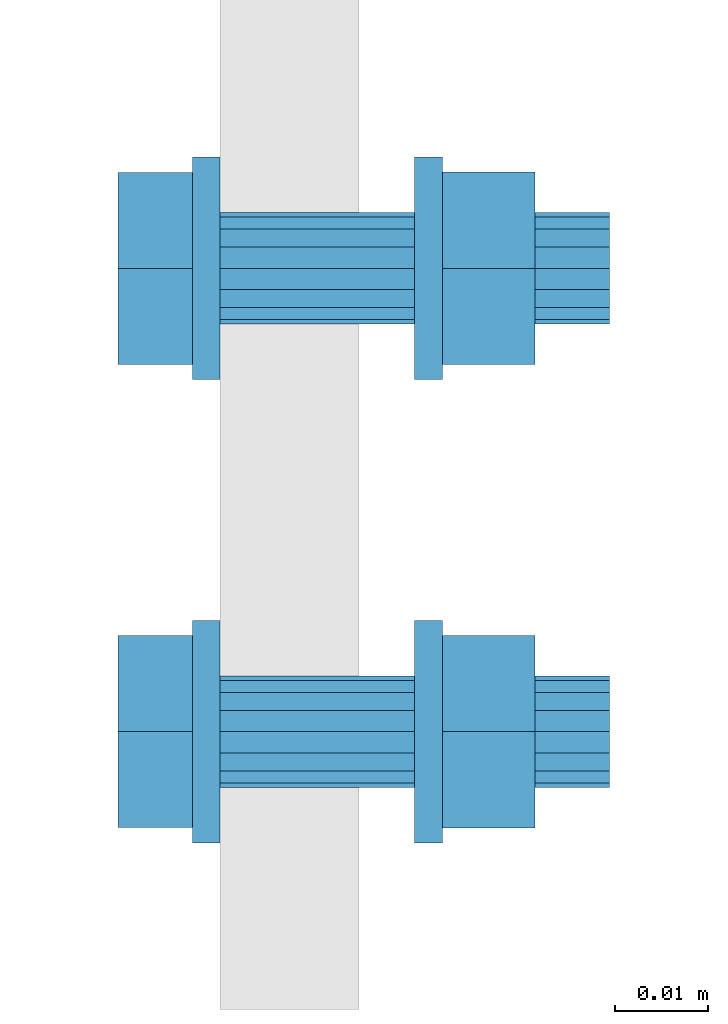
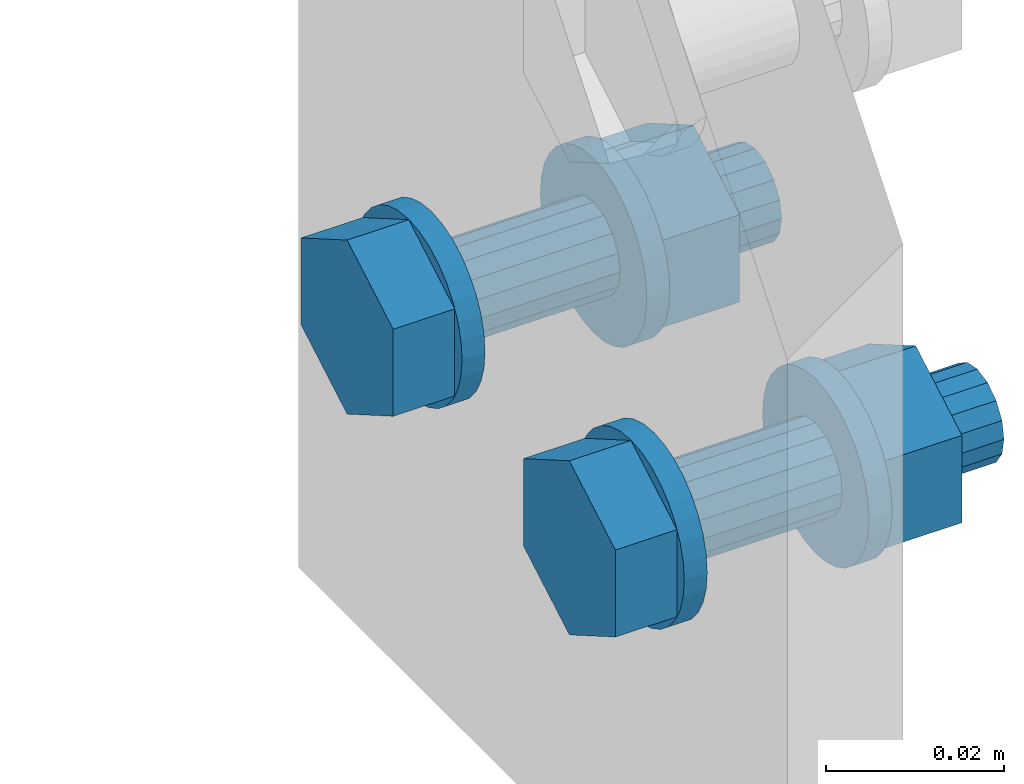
# One storey, part 13 of 13: 2 mechanical fasteners.
"""IFC4X3_ADD2 building model written with IfcOpenShell, lengths in millimetres."""

from ifc_helpers import new_model, entity, si_unit, converted_unit, derived_unit, direction, origin, place, context, project, spatial, faceted_brep, element, save


model = new_model("IFC4X3_ADD2")

# Units and contexts
model_context = context("Model", 3, precision=0.01, world=origin(), true_north=direction((6.123233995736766e-17, 1.0)))
plan_context = context("Plan", 3, precision=0.01, world=origin(), true_north=direction((6.123233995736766e-17, 1.0)))
ifc_project = project(units=[si_unit("LENGTHUNIT", "METRE", prefix="MILLI"), converted_unit("PLANEANGLEUNIT", "DEGREE", entity("IfcPlaneAngleMeasure", 0.017453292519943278), si_unit("PLANEANGLEUNIT", "RADIAN"), dimensions=[0, 0, 0, 0, 0, 0, 0]), si_unit("AREAUNIT", "SQUARE_METRE"), si_unit("VOLUMEUNIT", "CUBIC_METRE"), derived_unit("THERMALTRANSMITTANCEUNIT", [(si_unit("MASSUNIT", "GRAM", prefix="KILO"), 1), (si_unit("THERMODYNAMICTEMPERATUREUNIT", "KELVIN"), -1), (si_unit("TIMEUNIT", "SECOND"), -3)]), derived_unit("USERDEFINED", [(si_unit("MASSUNIT", "GRAM", prefix="KILO"), 1), (si_unit("THERMODYNAMICTEMPERATUREUNIT", "KELVIN"), -1), (si_unit("TIMEUNIT", "SECOND"), -2)]), derived_unit("THERMALRESISTANCEUNIT", [(si_unit("MASSUNIT", "GRAM", prefix="KILO"), -1), (si_unit("TIMEUNIT", "SECOND"), 3), (si_unit("THERMODYNAMICTEMPERATUREUNIT", "KELVIN"), 1)]), si_unit("MASSUNIT", "GRAM", prefix="KILO"), derived_unit("MOMENTOFINERTIAUNIT", [(si_unit("LENGTHUNIT", "METRE"), 4)]), derived_unit("LINEARFORCEUNIT", [(si_unit("MASSUNIT", "GRAM", prefix="KILO"), 1), (si_unit("TIMEUNIT", "SECOND"), -2)]), derived_unit("WARPINGCONSTANTUNIT", [(si_unit("LENGTHUNIT", "METRE"), 6)]), si_unit("PRESSUREUNIT", "PASCAL"), derived_unit("MASSDENSITYUNIT", [(si_unit("MASSUNIT", "GRAM", prefix="KILO"), 1), (si_unit("LENGTHUNIT", "METRE"), -3)]), derived_unit("MODULUSOFELASTICITYUNIT", [(si_unit("MASSUNIT", "GRAM", prefix="KILO"), 1), (si_unit("TIMEUNIT", "SECOND"), -2), (si_unit("LENGTHUNIT", "METRE"), -1)]), derived_unit("THERMALEXPANSIONCOEFFICIENTUNIT", [(si_unit("THERMODYNAMICTEMPERATUREUNIT", "KELVIN"), -1)]), derived_unit("VAPORPERMEABILITYUNIT", [(si_unit("LENGTHUNIT", "METRE"), -1), (si_unit("TIMEUNIT", "SECOND"), 1)]), derived_unit("USERDEFINED", [(si_unit("MASSUNIT", "GRAM", prefix="KILO"), 1), (si_unit("TIMEUNIT", "SECOND"), -3), (si_unit("LENGTHUNIT", "METRE"), 3), (si_unit("ELECTRICCURRENTUNIT", "AMPERE"), -2)]), derived_unit("SPECIFICHEATCAPACITYUNIT", [(si_unit("THERMODYNAMICTEMPERATUREUNIT", "KELVIN"), -1), (si_unit("TIMEUNIT", "SECOND"), -2), (si_unit("LENGTHUNIT", "METRE"), 2)]), derived_unit("THERMALCONDUCTANCEUNIT", [(si_unit("MASSUNIT", "GRAM", prefix="KILO"), 1), (si_unit("THERMODYNAMICTEMPERATUREUNIT", "KELVIN"), -1), (si_unit("TIMEUNIT", "SECOND"), -3), (si_unit("LENGTHUNIT", "METRE"), 1)])], contexts=[model_context, plan_context])

# Site, building, storey
site_placement = place(None, origin())
site = spatial("IfcSite", under=ifc_project, at=site_placement, Name="Default", CompositionType="ELEMENT")
building_placement = place(site_placement, origin())
building = spatial("IfcBuilding", under=site, at=building_placement, Name="Complex structure", CompositionType="ELEMENT")
storey_placement = place(building_placement, origin())
storey = spatial("IfcBuildingStorey", under=building, at=storey_placement, Name="Level 00", CompositionType="ELEMENT", Elevation=0.0)

# Mechanical fasteners
mechanical_fastener_1_placement = place(storey_placement, origin())
element("IfcMechanicalFastener", 1, at=mechanical_fastener_1_placement, inside=storey, ObjectType="Bolt#5", NominalDiameter=12.0, NominalLength=45.0, context=model_context, shape_type="Brep", body=[
    faceted_brep([(-1166.221550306, -1295.866703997, 2900.0), (-1163.221550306, -1295.866703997, 2900.0), (-1163.221550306, -1296.097280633, 2897.658916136), (-1166.221550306, -1296.097280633, 2897.658916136), (-1163.221550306, -1296.780149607, 2895.407798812), (-1166.221550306, -1296.780149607, 2895.407798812), (-1163.221550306, -1297.88906865, 2893.333157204), (-1166.221550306, -1297.88906865, 2893.333157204), (-1163.221550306, -1299.381422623, 2891.514718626), (-1166.221550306, -1299.381422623, 2891.514718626), (-1163.221550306, -1301.199861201, 2890.022364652), (-1166.221550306, -1301.199861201, 2890.022364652), (-1163.221550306, -1303.274502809, 2888.91344561), (-1166.221550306, -1303.274502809, 2888.91344561), (-1163.221550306, -1305.525620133, 2888.230576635), (-1166.221550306, -1305.525620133, 2888.230576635), (-1163.221550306, -1307.866703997, 2888.0), (-1166.221550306, -1307.866703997, 2888.0), (-1163.221550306, -1310.207787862, 2888.230576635), (-1166.221550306, -1310.207787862, 2888.230576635), (-1163.221550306, -1312.458905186, 2888.91344561), (-1166.221550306, -1312.458905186, 2888.91344561), (-1163.221550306, -1314.533546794, 2890.022364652), (-1166.221550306, -1314.533546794, 2890.022364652), (-1163.221550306, -1316.351985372, 2891.514718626), (-1166.221550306, -1316.351985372, 2891.514718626), (-1163.221550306, -1317.844339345, 2893.333157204), (-1166.221550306, -1317.844339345, 2893.333157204), (-1163.221550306, -1318.953258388, 2895.407798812), (-1166.221550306, -1318.953258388, 2895.407798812), (-1163.221550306, -1319.636127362, 2897.658916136), (-1166.221550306, -1319.636127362, 2897.658916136), (-1163.221550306, -1319.866703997, 2900.0), (-1166.221550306, -1319.866703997, 2900.0), (-1163.221550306, -1319.636127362, 2902.341083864), (-1166.221550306, -1319.636127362, 2902.341083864), (-1163.221550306, -1318.953258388, 2904.592201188), (-1166.221550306, -1318.953258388, 2904.592201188), (-1163.221550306, -1317.844339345, 2906.666842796), (-1166.221550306, -1317.844339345, 2906.666842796), (-1163.221550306, -1316.351985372, 2908.485281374), (-1166.221550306, -1316.351985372, 2908.485281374), (-1163.221550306, -1314.533546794, 2909.977635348), (-1166.221550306, -1314.533546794, 2909.977635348), (-1163.221550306, -1312.458905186, 2911.08655439), (-1166.221550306, -1312.458905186, 2911.08655439), (-1163.221550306, -1310.207787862, 2911.769423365), (-1166.221550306, -1310.207787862, 2911.769423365), (-1163.221550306, -1307.866703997, 2912.0), (-1166.221550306, -1307.866703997, 2912.0), (-1163.221550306, -1305.525620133, 2911.769423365), (-1166.221550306, -1305.525620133, 2911.769423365), (-1163.221550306, -1303.274502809, 2911.08655439), (-1166.221550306, -1303.274502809, 2911.08655439), (-1163.221550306, -1301.199861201, 2909.977635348), (-1166.221550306, -1301.199861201, 2909.977635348), (-1163.221550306, -1299.381422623, 2908.485281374), (-1166.221550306, -1299.381422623, 2908.485281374), (-1163.221550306, -1297.88906865, 2906.666842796), (-1166.221550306, -1297.88906865, 2906.666842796), (-1163.221550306, -1296.780149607, 2904.592201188), (-1166.221550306, -1296.780149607, 2904.592201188), (-1163.221550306, -1296.097280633, 2902.341083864), (-1166.221550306, -1296.097280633, 2902.341083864)], [[[0, 1, 2, 3]], [[3, 2, 4, 5]], [[5, 4, 6, 7]], [[7, 6, 8, 9]], [[9, 8, 10, 11]], [[11, 10, 12, 13]], [[13, 12, 14, 15]], [[15, 14, 16, 17]], [[17, 16, 18, 19]], [[19, 18, 20, 21]], [[21, 20, 22, 23]], [[23, 22, 24, 25]], [[25, 24, 26, 27]], [[27, 26, 28, 29]], [[29, 28, 30, 31]], [[31, 30, 32, 33]], [[33, 32, 34, 35]], [[35, 34, 36, 37]], [[37, 36, 38, 39]], [[39, 38, 40, 41]], [[41, 40, 42, 43]], [[43, 42, 44, 45]], [[45, 44, 46, 47]], [[47, 46, 48, 49]], [[49, 48, 50, 51]], [[51, 50, 52, 53]], [[53, 52, 54, 55]], [[55, 54, 56, 57]], [[57, 56, 58, 59]], [[59, 58, 60, 61]], [[61, 60, 62, 63]], [[63, 62, 1, 0]], [[0, 3, 5, 7, 9, 11, 13, 15, 17, 19, 21, 23, 25, 27, 29, 31, 33, 35, 37, 39, 41, 43, 45, 47, 49, 51, 53, 55, 57, 59, 61, 63]], [[1, 62, 60, 58, 56, 54, 52, 50, 48, 46, 44, 42, 40, 38, 36, 34, 32, 30, 28, 26, 24, 22, 20, 18, 16, 14, 12, 10, 8, 6, 4, 2]]]),
    faceted_brep([(-1166.221550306, -1318.2200377, 2894.0225), (-1174.221550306, -1318.2200377, 2894.0225), (-1174.221550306, -1307.866703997, 2888.045), (-1166.221550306, -1307.866703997, 2888.045), (-1174.221550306, -1297.513370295, 2894.0225), (-1166.221550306, -1297.513370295, 2894.0225), (-1174.221550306, -1297.513370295, 2905.9775), (-1166.221550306, -1297.513370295, 2905.9775), (-1174.221550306, -1307.866703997, 2911.955), (-1166.221550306, -1307.866703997, 2911.955), (-1174.221550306, -1318.2200377, 2905.9775), (-1166.221550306, -1318.2200377, 2905.9775)], [[[0, 1, 2, 3]], [[3, 2, 4, 5]], [[5, 4, 6, 7]], [[7, 6, 8, 9]], [[9, 8, 10, 11]], [[11, 10, 1, 0]], [[4, 2, 1, 10, 8, 6]], [[0, 3, 5, 7, 9, 11]]]),
    faceted_brep([(-1163.221550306, -1301.866703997, 2900.0), (-1142.221550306, -1301.866703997, 2900.0), (-1142.221550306, -1302.323426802, 2897.703899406), (-1163.221550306, -1302.323426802, 2897.703899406), (-1142.221550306, -1303.62406331, 2895.757359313), (-1163.221550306, -1303.62406331, 2895.757359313), (-1142.221550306, -1305.570603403, 2894.456722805), (-1163.221550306, -1305.570603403, 2894.456722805), (-1142.221550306, -1307.866703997, 2894.0), (-1163.221550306, -1307.866703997, 2894.0), (-1142.221550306, -1310.162804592, 2894.456722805), (-1163.221550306, -1310.162804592, 2894.456722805), (-1142.221550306, -1312.109344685, 2895.757359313), (-1163.221550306, -1312.109344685, 2895.757359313), (-1142.221550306, -1313.409981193, 2897.703899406), (-1163.221550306, -1313.409981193, 2897.703899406), (-1142.221550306, -1313.866703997, 2900.0), (-1163.221550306, -1313.866703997, 2900.0), (-1142.221550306, -1313.409981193, 2902.296100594), (-1163.221550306, -1313.409981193, 2902.296100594), (-1142.221550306, -1312.109344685, 2904.242640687), (-1163.221550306, -1312.109344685, 2904.242640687), (-1142.221550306, -1310.162804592, 2905.543277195), (-1163.221550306, -1310.162804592, 2905.543277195), (-1142.221550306, -1307.866703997, 2906.0), (-1163.221550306, -1307.866703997, 2906.0), (-1142.221550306, -1305.570603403, 2905.543277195), (-1163.221550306, -1305.570603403, 2905.543277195), (-1142.221550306, -1303.62406331, 2904.242640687), (-1163.221550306, -1303.62406331, 2904.242640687), (-1142.221550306, -1302.323426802, 2902.296100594), (-1163.221550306, -1302.323426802, 2902.296100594)], [[[0, 1, 2, 3]], [[3, 2, 4, 5]], [[5, 4, 6, 7]], [[7, 6, 8, 9]], [[9, 8, 10, 11]], [[11, 10, 12, 13]], [[13, 12, 14, 15]], [[15, 14, 16, 17]], [[17, 16, 18, 19]], [[19, 18, 20, 21]], [[21, 20, 22, 23]], [[23, 22, 24, 25]], [[25, 24, 26, 27]], [[27, 26, 28, 29]], [[29, 28, 30, 31]], [[31, 30, 1, 0]], [[0, 3, 5, 7, 9, 11, 13, 15, 17, 19, 21, 23, 25, 27, 29, 31]], [[1, 30, 28, 26, 24, 22, 20, 18, 16, 14, 12, 10, 8, 6, 4, 2]]]),
    faceted_brep([(-1142.221550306, -1295.866703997, 2900.0), (-1139.221550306, -1295.866703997, 2900.0), (-1139.221550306, -1296.097280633, 2897.658916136), (-1142.221550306, -1296.097280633, 2897.658916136), (-1139.221550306, -1296.780149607, 2895.407798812), (-1142.221550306, -1296.780149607, 2895.407798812), (-1139.221550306, -1297.88906865, 2893.333157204), (-1142.221550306, -1297.88906865, 2893.333157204), (-1139.221550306, -1299.381422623, 2891.514718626), (-1142.221550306, -1299.381422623, 2891.514718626), (-1139.221550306, -1301.199861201, 2890.022364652), (-1142.221550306, -1301.199861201, 2890.022364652), (-1139.221550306, -1303.274502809, 2888.91344561), (-1142.221550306, -1303.274502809, 2888.91344561), (-1139.221550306, -1305.525620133, 2888.230576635), (-1142.221550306, -1305.525620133, 2888.230576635), (-1139.221550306, -1307.866703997, 2888.0), (-1142.221550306, -1307.866703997, 2888.0), (-1139.221550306, -1310.207787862, 2888.230576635), (-1142.221550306, -1310.207787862, 2888.230576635), (-1139.221550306, -1312.458905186, 2888.91344561), (-1142.221550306, -1312.458905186, 2888.91344561), (-1139.221550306, -1314.533546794, 2890.022364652), (-1142.221550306, -1314.533546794, 2890.022364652), (-1139.221550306, -1316.351985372, 2891.514718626), (-1142.221550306, -1316.351985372, 2891.514718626), (-1139.221550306, -1317.844339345, 2893.333157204), (-1142.221550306, -1317.844339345, 2893.333157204), (-1139.221550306, -1318.953258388, 2895.407798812), (-1142.221550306, -1318.953258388, 2895.407798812), (-1139.221550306, -1319.636127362, 2897.658916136), (-1142.221550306, -1319.636127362, 2897.658916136), (-1139.221550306, -1319.866703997, 2900.0), (-1142.221550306, -1319.866703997, 2900.0), (-1139.221550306, -1319.636127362, 2902.341083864), (-1142.221550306, -1319.636127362, 2902.341083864), (-1139.221550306, -1318.953258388, 2904.592201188), (-1142.221550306, -1318.953258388, 2904.592201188), (-1139.221550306, -1317.844339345, 2906.666842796), (-1142.221550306, -1317.844339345, 2906.666842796), (-1139.221550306, -1316.351985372, 2908.485281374), (-1142.221550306, -1316.351985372, 2908.485281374), (-1139.221550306, -1314.533546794, 2909.977635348), (-1142.221550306, -1314.533546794, 2909.977635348), (-1139.221550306, -1312.458905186, 2911.08655439), (-1142.221550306, -1312.458905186, 2911.08655439), (-1139.221550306, -1310.207787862, 2911.769423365), (-1142.221550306, -1310.207787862, 2911.769423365), (-1139.221550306, -1307.866703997, 2912.0), (-1142.221550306, -1307.866703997, 2912.0), (-1139.221550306, -1305.525620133, 2911.769423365), (-1142.221550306, -1305.525620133, 2911.769423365), (-1139.221550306, -1303.274502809, 2911.08655439), (-1142.221550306, -1303.274502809, 2911.08655439), (-1139.221550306, -1301.199861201, 2909.977635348), (-1142.221550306, -1301.199861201, 2909.977635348), (-1139.221550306, -1299.381422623, 2908.485281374), (-1142.221550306, -1299.381422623, 2908.485281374), (-1139.221550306, -1297.88906865, 2906.666842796), (-1142.221550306, -1297.88906865, 2906.666842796), (-1139.221550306, -1296.780149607, 2904.592201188), (-1142.221550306, -1296.780149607, 2904.592201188), (-1139.221550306, -1296.097280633, 2902.341083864), (-1142.221550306, -1296.097280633, 2902.341083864)], [[[0, 1, 2, 3]], [[3, 2, 4, 5]], [[5, 4, 6, 7]], [[7, 6, 8, 9]], [[9, 8, 10, 11]], [[11, 10, 12, 13]], [[13, 12, 14, 15]], [[15, 14, 16, 17]], [[17, 16, 18, 19]], [[19, 18, 20, 21]], [[21, 20, 22, 23]], [[23, 22, 24, 25]], [[25, 24, 26, 27]], [[27, 26, 28, 29]], [[29, 28, 30, 31]], [[31, 30, 32, 33]], [[33, 32, 34, 35]], [[35, 34, 36, 37]], [[37, 36, 38, 39]], [[39, 38, 40, 41]], [[41, 40, 42, 43]], [[43, 42, 44, 45]], [[45, 44, 46, 47]], [[47, 46, 48, 49]], [[49, 48, 50, 51]], [[51, 50, 52, 53]], [[53, 52, 54, 55]], [[55, 54, 56, 57]], [[57, 56, 58, 59]], [[59, 58, 60, 61]], [[61, 60, 62, 63]], [[63, 62, 1, 0]], [[0, 3, 5, 7, 9, 11, 13, 15, 17, 19, 21, 23, 25, 27, 29, 31, 33, 35, 37, 39, 41, 43, 45, 47, 49, 51, 53, 55, 57, 59, 61, 63]], [[1, 62, 60, 58, 56, 54, 52, 50, 48, 46, 44, 42, 40, 38, 36, 34, 32, 30, 28, 26, 24, 22, 20, 18, 16, 14, 12, 10, 8, 6, 4, 2]]]),
    faceted_brep([(-1129.221550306, -1318.259008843, 2894.0), (-1139.221550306, -1318.259008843, 2894.0), (-1139.221550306, -1307.866703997, 2888.0), (-1129.221550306, -1307.866703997, 2888.0), (-1139.221550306, -1297.474399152, 2894.0), (-1129.221550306, -1297.474399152, 2894.0), (-1139.221550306, -1297.474399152, 2906.0), (-1129.221550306, -1297.474399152, 2906.0), (-1139.221550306, -1307.866703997, 2912.0), (-1129.221550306, -1307.866703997, 2912.0), (-1139.221550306, -1318.259008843, 2906.0), (-1129.221550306, -1318.259008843, 2906.0)], [[[0, 1, 2, 3]], [[3, 2, 4, 5]], [[5, 4, 6, 7]], [[7, 6, 8, 9]], [[9, 8, 10, 11]], [[11, 10, 1, 0]], [[4, 2, 1, 10, 8, 6]], [[0, 3, 5, 7, 9, 11]]]),
    faceted_brep([(-1129.221550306, -1301.866703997, 2900.0), (-1121.221550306, -1301.866703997, 2900.0), (-1121.221550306, -1302.323426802, 2897.703899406), (-1129.221550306, -1302.323426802, 2897.703899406), (-1121.221550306, -1303.62406331, 2895.757359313), (-1129.221550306, -1303.62406331, 2895.757359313), (-1121.221550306, -1305.570603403, 2894.456722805), (-1129.221550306, -1305.570603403, 2894.456722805), (-1121.221550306, -1307.866703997, 2894.0), (-1129.221550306, -1307.866703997, 2894.0), (-1121.221550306, -1310.162804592, 2894.456722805), (-1129.221550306, -1310.162804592, 2894.456722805), (-1121.221550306, -1312.109344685, 2895.757359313), (-1129.221550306, -1312.109344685, 2895.757359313), (-1121.221550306, -1313.409981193, 2897.703899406), (-1129.221550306, -1313.409981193, 2897.703899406), (-1121.221550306, -1313.866703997, 2900.0), (-1129.221550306, -1313.866703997, 2900.0), (-1121.221550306, -1313.409981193, 2902.296100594), (-1129.221550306, -1313.409981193, 2902.296100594), (-1121.221550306, -1312.109344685, 2904.242640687), (-1129.221550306, -1312.109344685, 2904.242640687), (-1121.221550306, -1310.162804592, 2905.543277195), (-1129.221550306, -1310.162804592, 2905.543277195), (-1121.221550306, -1307.866703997, 2906.0), (-1129.221550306, -1307.866703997, 2906.0), (-1121.221550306, -1305.570603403, 2905.543277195), (-1129.221550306, -1305.570603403, 2905.543277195), (-1121.221550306, -1303.62406331, 2904.242640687), (-1129.221550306, -1303.62406331, 2904.242640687), (-1121.221550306, -1302.323426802, 2902.296100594), (-1129.221550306, -1302.323426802, 2902.296100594)], [[[0, 1, 2, 3]], [[3, 2, 4, 5]], [[5, 4, 6, 7]], [[7, 6, 8, 9]], [[9, 8, 10, 11]], [[11, 10, 12, 13]], [[13, 12, 14, 15]], [[15, 14, 16, 17]], [[17, 16, 18, 19]], [[19, 18, 20, 21]], [[21, 20, 22, 23]], [[23, 22, 24, 25]], [[25, 24, 26, 27]], [[27, 26, 28, 29]], [[29, 28, 30, 31]], [[31, 30, 1, 0]], [[0, 3, 5, 7, 9, 11, 13, 15, 17, 19, 21, 23, 25, 27, 29, 31]], [[1, 30, 28, 26, 24, 22, 20, 18, 16, 14, 12, 10, 8, 6, 4, 2]]]),
])
mechanical_fastener_2_placement = place(storey_placement, origin())
element("IfcMechanicalFastener", 2, at=mechanical_fastener_2_placement, inside=storey, ObjectType="Bolt#6", NominalDiameter=12.0, NominalLength=45.0, context=model_context, shape_type="Brep", body=[
    faceted_brep([(-1166.221550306, -1269.866703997, 2900.0), (-1163.221550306, -1269.866703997, 2900.0), (-1163.221550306, -1269.636127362, 2902.341083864), (-1166.221550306, -1269.636127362, 2902.341083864), (-1163.221550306, -1268.953258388, 2904.592201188), (-1166.221550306, -1268.953258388, 2904.592201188), (-1163.221550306, -1267.844339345, 2906.666842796), (-1166.221550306, -1267.844339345, 2906.666842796), (-1163.221550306, -1266.351985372, 2908.485281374), (-1166.221550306, -1266.351985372, 2908.485281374), (-1163.221550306, -1264.533546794, 2909.977635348), (-1166.221550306, -1264.533546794, 2909.977635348), (-1163.221550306, -1262.458905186, 2911.08655439), (-1166.221550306, -1262.458905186, 2911.08655439), (-1163.221550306, -1260.207787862, 2911.769423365), (-1166.221550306, -1260.207787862, 2911.769423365), (-1163.221550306, -1257.866703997, 2912.0), (-1166.221550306, -1257.866703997, 2912.0), (-1163.221550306, -1255.525620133, 2911.769423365), (-1166.221550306, -1255.525620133, 2911.769423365), (-1163.221550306, -1253.274502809, 2911.08655439), (-1166.221550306, -1253.274502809, 2911.08655439), (-1163.221550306, -1251.199861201, 2909.977635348), (-1166.221550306, -1251.199861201, 2909.977635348), (-1163.221550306, -1249.381422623, 2908.485281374), (-1166.221550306, -1249.381422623, 2908.485281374), (-1163.221550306, -1247.88906865, 2906.666842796), (-1166.221550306, -1247.88906865, 2906.666842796), (-1163.221550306, -1246.780149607, 2904.592201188), (-1166.221550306, -1246.780149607, 2904.592201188), (-1163.221550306, -1246.097280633, 2902.341083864), (-1166.221550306, -1246.097280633, 2902.341083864), (-1163.221550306, -1245.866703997, 2900.0), (-1166.221550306, -1245.866703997, 2900.0), (-1163.221550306, -1246.097280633, 2897.658916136), (-1166.221550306, -1246.097280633, 2897.658916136), (-1163.221550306, -1246.780149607, 2895.407798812), (-1166.221550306, -1246.780149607, 2895.407798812), (-1163.221550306, -1247.88906865, 2893.333157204), (-1166.221550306, -1247.88906865, 2893.333157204), (-1163.221550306, -1249.381422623, 2891.514718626), (-1166.221550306, -1249.381422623, 2891.514718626), (-1163.221550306, -1251.199861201, 2890.022364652), (-1166.221550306, -1251.199861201, 2890.022364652), (-1163.221550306, -1253.274502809, 2888.91344561), (-1166.221550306, -1253.274502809, 2888.91344561), (-1163.221550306, -1255.525620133, 2888.230576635), (-1166.221550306, -1255.525620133, 2888.230576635), (-1163.221550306, -1257.866703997, 2888.0), (-1166.221550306, -1257.866703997, 2888.0), (-1163.221550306, -1260.207787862, 2888.230576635), (-1166.221550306, -1260.207787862, 2888.230576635), (-1163.221550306, -1262.458905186, 2888.91344561), (-1166.221550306, -1262.458905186, 2888.91344561), (-1163.221550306, -1264.533546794, 2890.022364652), (-1166.221550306, -1264.533546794, 2890.022364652), (-1163.221550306, -1266.351985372, 2891.514718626), (-1166.221550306, -1266.351985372, 2891.514718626), (-1163.221550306, -1267.844339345, 2893.333157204), (-1166.221550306, -1267.844339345, 2893.333157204), (-1163.221550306, -1268.953258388, 2895.407798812), (-1166.221550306, -1268.953258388, 2895.407798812), (-1163.221550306, -1269.636127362, 2897.658916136), (-1166.221550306, -1269.636127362, 2897.658916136)], [[[0, 1, 2, 3]], [[3, 2, 4, 5]], [[5, 4, 6, 7]], [[7, 6, 8, 9]], [[9, 8, 10, 11]], [[11, 10, 12, 13]], [[13, 12, 14, 15]], [[15, 14, 16, 17]], [[17, 16, 18, 19]], [[19, 18, 20, 21]], [[21, 20, 22, 23]], [[23, 22, 24, 25]], [[25, 24, 26, 27]], [[27, 26, 28, 29]], [[29, 28, 30, 31]], [[31, 30, 32, 33]], [[33, 32, 34, 35]], [[35, 34, 36, 37]], [[37, 36, 38, 39]], [[39, 38, 40, 41]], [[41, 40, 42, 43]], [[43, 42, 44, 45]], [[45, 44, 46, 47]], [[47, 46, 48, 49]], [[49, 48, 50, 51]], [[51, 50, 52, 53]], [[53, 52, 54, 55]], [[55, 54, 56, 57]], [[57, 56, 58, 59]], [[59, 58, 60, 61]], [[61, 60, 62, 63]], [[63, 62, 1, 0]], [[0, 3, 5, 7, 9, 11, 13, 15, 17, 19, 21, 23, 25, 27, 29, 31, 33, 35, 37, 39, 41, 43, 45, 47, 49, 51, 53, 55, 57, 59, 61, 63]], [[1, 62, 60, 58, 56, 54, 52, 50, 48, 46, 44, 42, 40, 38, 36, 34, 32, 30, 28, 26, 24, 22, 20, 18, 16, 14, 12, 10, 8, 6, 4, 2]]]),
    faceted_brep([(-1166.221550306, -1247.513370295, 2905.9775), (-1174.221550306, -1247.513370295, 2905.9775), (-1174.221550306, -1257.866703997, 2911.955), (-1166.221550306, -1257.866703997, 2911.955), (-1174.221550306, -1268.2200377, 2905.9775), (-1166.221550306, -1268.2200377, 2905.9775), (-1174.221550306, -1268.2200377, 2894.0225), (-1166.221550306, -1268.2200377, 2894.0225), (-1174.221550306, -1257.866703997, 2888.045), (-1166.221550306, -1257.866703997, 2888.045), (-1174.221550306, -1247.513370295, 2894.0225), (-1166.221550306, -1247.513370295, 2894.0225)], [[[0, 1, 2, 3]], [[3, 2, 4, 5]], [[5, 4, 6, 7]], [[7, 6, 8, 9]], [[9, 8, 10, 11]], [[11, 10, 1, 0]], [[4, 2, 1, 10, 8, 6]], [[0, 3, 5, 7, 9, 11]]]),
    faceted_brep([(-1163.221550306, -1263.866703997, 2900.0), (-1142.221550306, -1263.866703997, 2900.0), (-1142.221550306, -1263.409981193, 2902.296100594), (-1163.221550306, -1263.409981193, 2902.296100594), (-1142.221550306, -1262.109344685, 2904.242640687), (-1163.221550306, -1262.109344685, 2904.242640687), (-1142.221550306, -1260.162804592, 2905.543277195), (-1163.221550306, -1260.162804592, 2905.543277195), (-1142.221550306, -1257.866703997, 2906.0), (-1163.221550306, -1257.866703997, 2906.0), (-1142.221550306, -1255.570603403, 2905.543277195), (-1163.221550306, -1255.570603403, 2905.543277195), (-1142.221550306, -1253.62406331, 2904.242640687), (-1163.221550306, -1253.62406331, 2904.242640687), (-1142.221550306, -1252.323426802, 2902.296100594), (-1163.221550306, -1252.323426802, 2902.296100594), (-1142.221550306, -1251.866703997, 2900.0), (-1163.221550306, -1251.866703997, 2900.0), (-1142.221550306, -1252.323426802, 2897.703899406), (-1163.221550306, -1252.323426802, 2897.703899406), (-1142.221550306, -1253.62406331, 2895.757359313), (-1163.221550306, -1253.62406331, 2895.757359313), (-1142.221550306, -1255.570603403, 2894.456722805), (-1163.221550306, -1255.570603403, 2894.456722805), (-1142.221550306, -1257.866703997, 2894.0), (-1163.221550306, -1257.866703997, 2894.0), (-1142.221550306, -1260.162804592, 2894.456722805), (-1163.221550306, -1260.162804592, 2894.456722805), (-1142.221550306, -1262.109344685, 2895.757359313), (-1163.221550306, -1262.109344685, 2895.757359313), (-1142.221550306, -1263.409981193, 2897.703899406), (-1163.221550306, -1263.409981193, 2897.703899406)], [[[0, 1, 2, 3]], [[3, 2, 4, 5]], [[5, 4, 6, 7]], [[7, 6, 8, 9]], [[9, 8, 10, 11]], [[11, 10, 12, 13]], [[13, 12, 14, 15]], [[15, 14, 16, 17]], [[17, 16, 18, 19]], [[19, 18, 20, 21]], [[21, 20, 22, 23]], [[23, 22, 24, 25]], [[25, 24, 26, 27]], [[27, 26, 28, 29]], [[29, 28, 30, 31]], [[31, 30, 1, 0]], [[0, 3, 5, 7, 9, 11, 13, 15, 17, 19, 21, 23, 25, 27, 29, 31]], [[1, 30, 28, 26, 24, 22, 20, 18, 16, 14, 12, 10, 8, 6, 4, 2]]]),
    faceted_brep([(-1142.221550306, -1269.866703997, 2900.0), (-1139.221550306, -1269.866703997, 2900.0), (-1139.221550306, -1269.636127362, 2902.341083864), (-1142.221550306, -1269.636127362, 2902.341083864), (-1139.221550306, -1268.953258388, 2904.592201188), (-1142.221550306, -1268.953258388, 2904.592201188), (-1139.221550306, -1267.844339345, 2906.666842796), (-1142.221550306, -1267.844339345, 2906.666842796), (-1139.221550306, -1266.351985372, 2908.485281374), (-1142.221550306, -1266.351985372, 2908.485281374), (-1139.221550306, -1264.533546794, 2909.977635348), (-1142.221550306, -1264.533546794, 2909.977635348), (-1139.221550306, -1262.458905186, 2911.08655439), (-1142.221550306, -1262.458905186, 2911.08655439), (-1139.221550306, -1260.207787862, 2911.769423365), (-1142.221550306, -1260.207787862, 2911.769423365), (-1139.221550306, -1257.866703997, 2912.0), (-1142.221550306, -1257.866703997, 2912.0), (-1139.221550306, -1255.525620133, 2911.769423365), (-1142.221550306, -1255.525620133, 2911.769423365), (-1139.221550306, -1253.274502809, 2911.08655439), (-1142.221550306, -1253.274502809, 2911.08655439), (-1139.221550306, -1251.199861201, 2909.977635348), (-1142.221550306, -1251.199861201, 2909.977635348), (-1139.221550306, -1249.381422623, 2908.485281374), (-1142.221550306, -1249.381422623, 2908.485281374), (-1139.221550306, -1247.88906865, 2906.666842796), (-1142.221550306, -1247.88906865, 2906.666842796), (-1139.221550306, -1246.780149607, 2904.592201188), (-1142.221550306, -1246.780149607, 2904.592201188), (-1139.221550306, -1246.097280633, 2902.341083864), (-1142.221550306, -1246.097280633, 2902.341083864), (-1139.221550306, -1245.866703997, 2900.0), (-1142.221550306, -1245.866703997, 2900.0), (-1139.221550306, -1246.097280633, 2897.658916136), (-1142.221550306, -1246.097280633, 2897.658916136), (-1139.221550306, -1246.780149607, 2895.407798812), (-1142.221550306, -1246.780149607, 2895.407798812), (-1139.221550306, -1247.88906865, 2893.333157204), (-1142.221550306, -1247.88906865, 2893.333157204), (-1139.221550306, -1249.381422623, 2891.514718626), (-1142.221550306, -1249.381422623, 2891.514718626), (-1139.221550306, -1251.199861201, 2890.022364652), (-1142.221550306, -1251.199861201, 2890.022364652), (-1139.221550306, -1253.274502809, 2888.91344561), (-1142.221550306, -1253.274502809, 2888.91344561), (-1139.221550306, -1255.525620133, 2888.230576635), (-1142.221550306, -1255.525620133, 2888.230576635), (-1139.221550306, -1257.866703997, 2888.0), (-1142.221550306, -1257.866703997, 2888.0), (-1139.221550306, -1260.207787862, 2888.230576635), (-1142.221550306, -1260.207787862, 2888.230576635), (-1139.221550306, -1262.458905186, 2888.91344561), (-1142.221550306, -1262.458905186, 2888.91344561), (-1139.221550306, -1264.533546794, 2890.022364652), (-1142.221550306, -1264.533546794, 2890.022364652), (-1139.221550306, -1266.351985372, 2891.514718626), (-1142.221550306, -1266.351985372, 2891.514718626), (-1139.221550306, -1267.844339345, 2893.333157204), (-1142.221550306, -1267.844339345, 2893.333157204), (-1139.221550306, -1268.953258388, 2895.407798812), (-1142.221550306, -1268.953258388, 2895.407798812), (-1139.221550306, -1269.636127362, 2897.658916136), (-1142.221550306, -1269.636127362, 2897.658916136)], [[[0, 1, 2, 3]], [[3, 2, 4, 5]], [[5, 4, 6, 7]], [[7, 6, 8, 9]], [[9, 8, 10, 11]], [[11, 10, 12, 13]], [[13, 12, 14, 15]], [[15, 14, 16, 17]], [[17, 16, 18, 19]], [[19, 18, 20, 21]], [[21, 20, 22, 23]], [[23, 22, 24, 25]], [[25, 24, 26, 27]], [[27, 26, 28, 29]], [[29, 28, 30, 31]], [[31, 30, 32, 33]], [[33, 32, 34, 35]], [[35, 34, 36, 37]], [[37, 36, 38, 39]], [[39, 38, 40, 41]], [[41, 40, 42, 43]], [[43, 42, 44, 45]], [[45, 44, 46, 47]], [[47, 46, 48, 49]], [[49, 48, 50, 51]], [[51, 50, 52, 53]], [[53, 52, 54, 55]], [[55, 54, 56, 57]], [[57, 56, 58, 59]], [[59, 58, 60, 61]], [[61, 60, 62, 63]], [[63, 62, 1, 0]], [[0, 3, 5, 7, 9, 11, 13, 15, 17, 19, 21, 23, 25, 27, 29, 31, 33, 35, 37, 39, 41, 43, 45, 47, 49, 51, 53, 55, 57, 59, 61, 63]], [[1, 62, 60, 58, 56, 54, 52, 50, 48, 46, 44, 42, 40, 38, 36, 34, 32, 30, 28, 26, 24, 22, 20, 18, 16, 14, 12, 10, 8, 6, 4, 2]]]),
    faceted_brep([(-1129.221550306, -1247.474399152, 2906.0), (-1139.221550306, -1247.474399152, 2906.0), (-1139.221550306, -1257.866703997, 2912.0), (-1129.221550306, -1257.866703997, 2912.0), (-1139.221550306, -1268.259008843, 2906.0), (-1129.221550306, -1268.259008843, 2906.0), (-1139.221550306, -1268.259008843, 2894.0), (-1129.221550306, -1268.259008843, 2894.0), (-1139.221550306, -1257.866703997, 2888.0), (-1129.221550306, -1257.866703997, 2888.0), (-1139.221550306, -1247.474399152, 2894.0), (-1129.221550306, -1247.474399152, 2894.0)], [[[0, 1, 2, 3]], [[3, 2, 4, 5]], [[5, 4, 6, 7]], [[7, 6, 8, 9]], [[9, 8, 10, 11]], [[11, 10, 1, 0]], [[4, 2, 1, 10, 8, 6]], [[0, 3, 5, 7, 9, 11]]]),
    faceted_brep([(-1129.221550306, -1263.866703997, 2900.0), (-1121.221550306, -1263.866703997, 2900.0), (-1121.221550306, -1263.409981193, 2902.296100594), (-1129.221550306, -1263.409981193, 2902.296100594), (-1121.221550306, -1262.109344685, 2904.242640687), (-1129.221550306, -1262.109344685, 2904.242640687), (-1121.221550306, -1260.162804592, 2905.543277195), (-1129.221550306, -1260.162804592, 2905.543277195), (-1121.221550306, -1257.866703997, 2906.0), (-1129.221550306, -1257.866703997, 2906.0), (-1121.221550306, -1255.570603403, 2905.543277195), (-1129.221550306, -1255.570603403, 2905.543277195), (-1121.221550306, -1253.62406331, 2904.242640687), (-1129.221550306, -1253.62406331, 2904.242640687), (-1121.221550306, -1252.323426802, 2902.296100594), (-1129.221550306, -1252.323426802, 2902.296100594), (-1121.221550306, -1251.866703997, 2900.0), (-1129.221550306, -1251.866703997, 2900.0), (-1121.221550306, -1252.323426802, 2897.703899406), (-1129.221550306, -1252.323426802, 2897.703899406), (-1121.221550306, -1253.62406331, 2895.757359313), (-1129.221550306, -1253.62406331, 2895.757359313), (-1121.221550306, -1255.570603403, 2894.456722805), (-1129.221550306, -1255.570603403, 2894.456722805), (-1121.221550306, -1257.866703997, 2894.0), (-1129.221550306, -1257.866703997, 2894.0), (-1121.221550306, -1260.162804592, 2894.456722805), (-1129.221550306, -1260.162804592, 2894.456722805), (-1121.221550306, -1262.109344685, 2895.757359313), (-1129.221550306, -1262.109344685, 2895.757359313), (-1121.221550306, -1263.409981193, 2897.703899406), (-1129.221550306, -1263.409981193, 2897.703899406)], [[[0, 1, 2, 3]], [[3, 2, 4, 5]], [[5, 4, 6, 7]], [[7, 6, 8, 9]], [[9, 8, 10, 11]], [[11, 10, 12, 13]], [[13, 12, 14, 15]], [[15, 14, 16, 17]], [[17, 16, 18, 19]], [[19, 18, 20, 21]], [[21, 20, 22, 23]], [[23, 22, 24, 25]], [[25, 24, 26, 27]], [[27, 26, 28, 29]], [[29, 28, 30, 31]], [[31, 30, 1, 0]], [[0, 3, 5, 7, 9, 11, 13, 15, 17, 19, 21, 23, 25, 27, 29, 31]], [[1, 30, 28, 26, 24, 22, 20, 18, 16, 14, 12, 10, 8, 6, 4, 2]]]),
])

save(model, "model.ifc")
